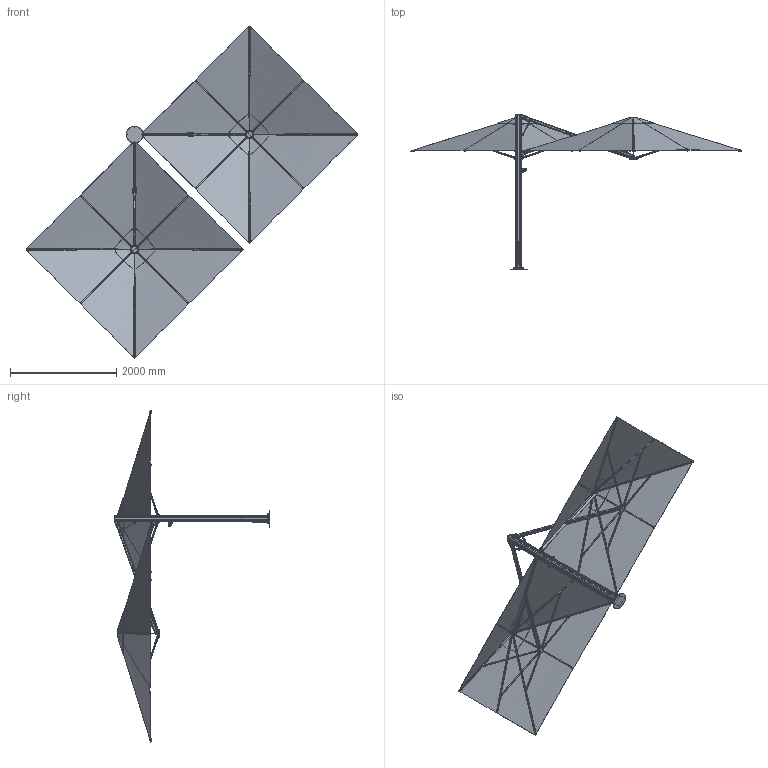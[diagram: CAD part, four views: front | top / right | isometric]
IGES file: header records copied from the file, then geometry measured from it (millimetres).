
Start section: SolidWorks IGES file using analytic representation for surfaces
Global section: file name: S:\RESEARCH and DEVELOPMENT\UnitySerenity Simple CAD Models\1. Export CAD\IGES Files\3M Square Duo.IGS; native system: SolidWorks 2017; preprocessor: SolidWorks 2017; author: Peter; date: 200619.105200; units: millimetre
Bounding box: 6248.34 x 2932.5 x 6248.35 mm (x, y, z)
Surface area: 46505577.7 mm2 (no closed solid volume)
Topology: 0 solids, 0 shells, 3718 faces, 49824 edges, 49782 vertices
Faces by surface type: bspline 2012, revolution 1706
